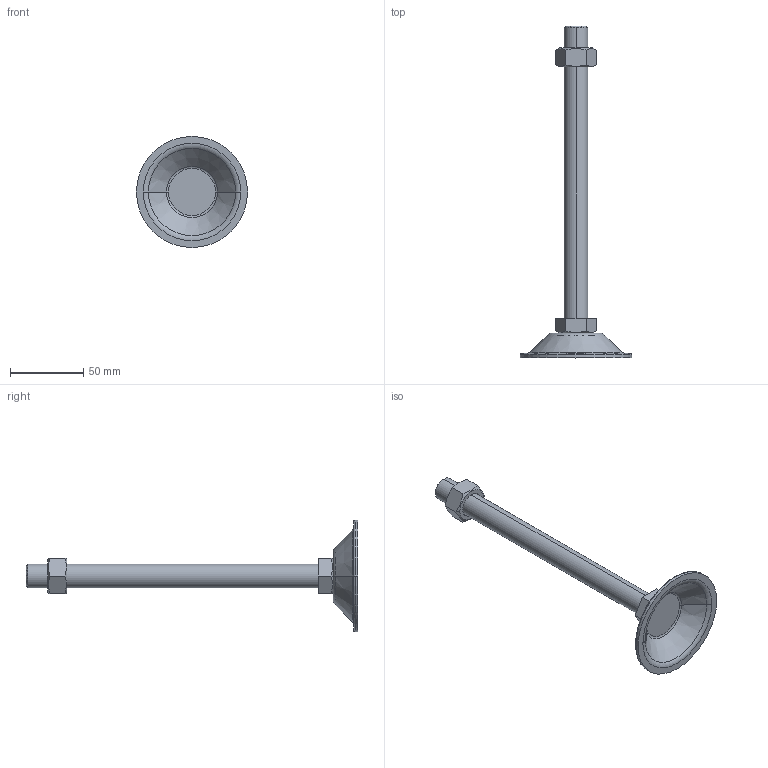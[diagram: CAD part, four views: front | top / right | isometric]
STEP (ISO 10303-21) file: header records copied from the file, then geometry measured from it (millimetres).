
FILE_DESCRIPTION (( 'STEP AP214' ), '1' );
FILE_NAME ('BL76-M16-200.step', '2021-01-06T05:40:01', ( '' ), ( '' ), 'SwSTEP 2.0', 'SolidWorks 2019', '' );
FILE_SCHEMA (( 'AUTOMOTIVE_DESIGN' ));
Length unit declared in the file: millimetre
Products named in the file (1): BL76-M16-200
Bounding box: 76 x 227 x 76 mm (x, y, z)
Volume: 64982.7 mm3; surface area: 25373 mm2
Topology: 3 solids, 3 shells, 53 faces, 110 edges, 66 vertices
Faces by surface type: plane 21, cone 16, torus 10, cylinder 6
Entity records: 1618 total; most frequent: CARTESIAN_POINT 428, DIRECTION 252, ORIENTED_EDGE 220, EDGE_CURVE 110, AXIS2_PLACEMENT_3D 106, VERTEX_POINT 66, EDGE_LOOP 58, FACE_OUTER_BOUND 53
